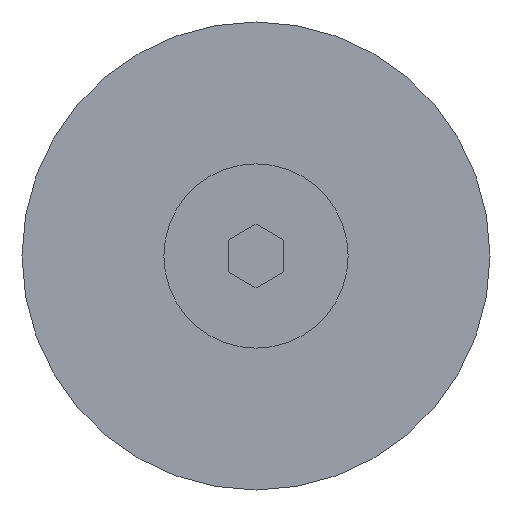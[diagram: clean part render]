
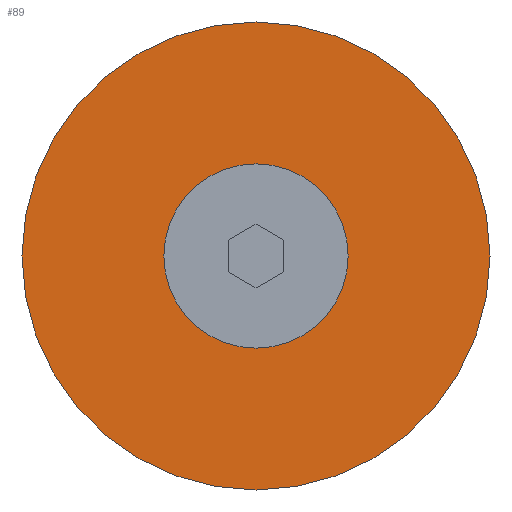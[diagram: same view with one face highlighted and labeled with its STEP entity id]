
A CAD part, front view. The second image highlights one B-rep face of the part: STEP entity #89.
In plain terms, the highlighted planar face has unit normal (0, -1, 0).
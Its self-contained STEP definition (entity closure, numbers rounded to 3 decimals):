
#89 = ADVANCED_FACE( '', ( #136, #137 ), #138, .F. );
#136 = FACE_BOUND( '', #197, .T. );
#137 = FACE_OUTER_BOUND( '', #198, .T. );
#138 = PLANE( '', #199 );
#197 = EDGE_LOOP( '', ( #319 ) );
#198 = EDGE_LOOP( '', ( #320 ) );
#199 = AXIS2_PLACEMENT_3D( '', #321, #322, #323 );
#319 = ORIENTED_EDGE( '', *, *, #420, .F. );
#320 = ORIENTED_EDGE( '', *, *, #421, .T. );
#321 = CARTESIAN_POINT( '', ( 6.35, -9.47, 0. ) );
#322 = DIRECTION( '', ( 0., 1., 0. ) );
#323 = DIRECTION( '', ( 0., 0., 1. ) );
#420 = EDGE_CURVE( '', #490, #490, #491, .T. );
#421 = EDGE_CURVE( '', #492, #492, #493, .T. );
#490 = VERTEX_POINT( '', #594 );
#491 = CIRCLE( '', #595, 2.5 );
#492 = VERTEX_POINT( '', #596 );
#493 = CIRCLE( '', #597, 6.35 );
#594 = CARTESIAN_POINT( '', ( 0., -9.47, -2.5 ) );
#595 = AXIS2_PLACEMENT_3D( '', #674, #675, #676 );
#596 = CARTESIAN_POINT( '', ( 0., -9.47, -6.35 ) );
#597 = AXIS2_PLACEMENT_3D( '', #677, #678, #679 );
#674 = CARTESIAN_POINT( '', ( 0., -9.47, 0. ) );
#675 = DIRECTION( '', ( 0., -1., 0. ) );
#676 = DIRECTION( '', ( 0., 0., -1. ) );
#677 = CARTESIAN_POINT( '', ( 0., -9.47, 0. ) );
#678 = DIRECTION( '', ( 0., -1., 0. ) );
#679 = DIRECTION( '', ( 0., 0., -1. ) );
